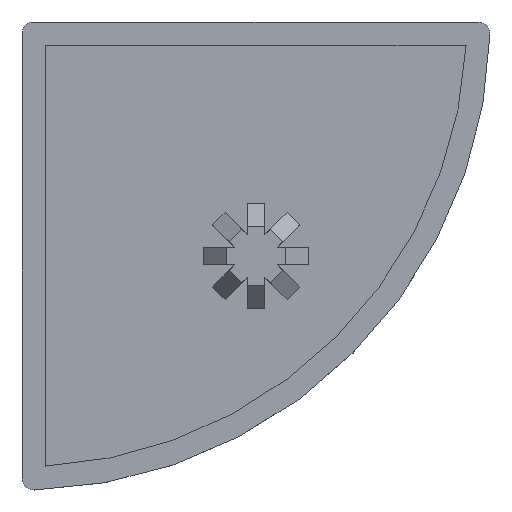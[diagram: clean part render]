
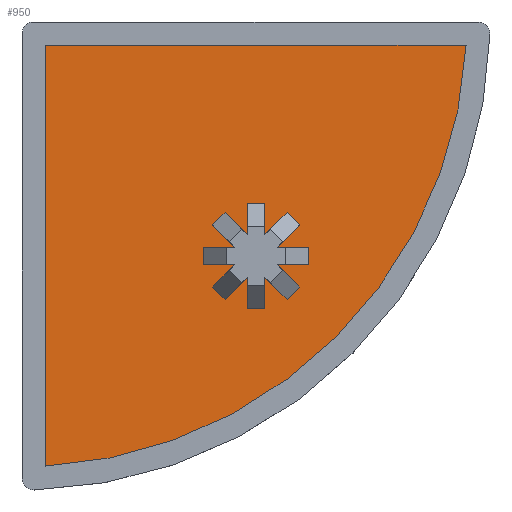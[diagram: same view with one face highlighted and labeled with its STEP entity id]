
A CAD part, top view. The second image highlights one B-rep face of the part: STEP entity #950.
In plain terms, the highlighted planar face has unit normal (0, 0, 1).
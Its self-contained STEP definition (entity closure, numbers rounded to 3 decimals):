
#16=FACE_BOUND('',#400,.T.);
#56=PLANE('',#1020);
#75=LINE('',#1335,#190);
#103=LINE('',#1391,#218);
#106=LINE('',#1396,#221);
#110=LINE('',#1405,#225);
#116=LINE('',#1417,#231);
#122=LINE('',#1429,#237);
#128=LINE('',#1441,#243);
#134=LINE('',#1453,#249);
#140=LINE('',#1464,#255);
#141=LINE('',#1467,#256);
#143=LINE('',#1470,#258);
#144=LINE('',#1473,#259);
#146=LINE('',#1476,#261);
#147=LINE('',#1479,#262);
#149=LINE('',#1483,#264);
#151=LINE('',#1487,#266);
#154=LINE('',#1492,#269);
#156=LINE('',#1496,#271);
#157=LINE('',#1498,#272);
#159=LINE('',#1502,#274);
#160=LINE('',#1504,#275);
#162=LINE('',#1508,#277);
#163=LINE('',#1510,#278);
#164=LINE('',#1512,#279);
#165=LINE('',#1516,#280);
#170=LINE('',#1529,#285);
#190=VECTOR('',#1088,2.689);
#218=VECTOR('',#1122,2.689);
#221=VECTOR('',#1127,1.5);
#225=VECTOR('',#1135,2.689);
#231=VECTOR('',#1145,2.689);
#237=VECTOR('',#1155,2.689);
#243=VECTOR('',#1165,2.689);
#249=VECTOR('',#1175,2.689);
#255=VECTOR('',#1185,2.689);
#256=VECTOR('',#1188,1.5);
#258=VECTOR('',#1192,2.689);
#259=VECTOR('',#1195,1.5);
#261=VECTOR('',#1199,2.689);
#262=VECTOR('',#1202,1.5);
#264=VECTOR('',#1206,2.689);
#266=VECTOR('',#1210,2.689);
#269=VECTOR('',#1215,2.689);
#271=VECTOR('',#1219,2.689);
#272=VECTOR('',#1222,1.5);
#274=VECTOR('',#1226,2.689);
#275=VECTOR('',#1229,1.5);
#277=VECTOR('',#1233,2.689);
#278=VECTOR('',#1236,1.5);
#279=VECTOR('',#1239,1.5);
#280=VECTOR('',#1242,35.947);
#285=VECTOR('',#1255,35.947);
#347=FACE_OUTER_BOUND('',#399,.T.);
#399=EDGE_LOOP('',(#872,#873,#874));
#400=EDGE_LOOP('',(#875,#876,#877,#878,#879,#880,#881,#882,#883,#884,#885,
#886,#887,#888,#889,#890,#891,#892,#893,#894,#895,#896,#897,#898));
#414=CIRCLE('',#1011,38.);
#436=VERTEX_POINT('',#1332);
#437=VERTEX_POINT('',#1334);
#461=VERTEX_POINT('',#1388);
#462=VERTEX_POINT('',#1390);
#463=VERTEX_POINT('',#1394);
#466=VERTEX_POINT('',#1404);
#469=VERTEX_POINT('',#1414);
#470=VERTEX_POINT('',#1416);
#473=VERTEX_POINT('',#1426);
#474=VERTEX_POINT('',#1428);
#477=VERTEX_POINT('',#1438);
#478=VERTEX_POINT('',#1440);
#481=VERTEX_POINT('',#1450);
#482=VERTEX_POINT('',#1452);
#485=VERTEX_POINT('',#1462);
#486=VERTEX_POINT('',#1466);
#487=VERTEX_POINT('',#1472);
#488=VERTEX_POINT('',#1478);
#489=VERTEX_POINT('',#1482);
#490=VERTEX_POINT('',#1486);
#491=VERTEX_POINT('',#1490);
#492=VERTEX_POINT('',#1494);
#493=VERTEX_POINT('',#1500);
#494=VERTEX_POINT('',#1506);
#495=VERTEX_POINT('',#1514);
#496=VERTEX_POINT('',#1515);
#499=VERTEX_POINT('',#1523);
#531=EDGE_CURVE('',#437,#436,#75,.T.);
#559=EDGE_CURVE('',#462,#461,#103,.T.);
#562=EDGE_CURVE('',#461,#463,#106,.T.);
#566=EDGE_CURVE('',#466,#462,#110,.T.);
#572=EDGE_CURVE('',#470,#469,#116,.T.);
#578=EDGE_CURVE('',#474,#473,#122,.T.);
#584=EDGE_CURVE('',#478,#477,#128,.T.);
#590=EDGE_CURVE('',#482,#481,#134,.T.);
#596=EDGE_CURVE('',#481,#485,#140,.T.);
#597=EDGE_CURVE('',#486,#466,#141,.T.);
#599=EDGE_CURVE('',#469,#486,#143,.T.);
#600=EDGE_CURVE('',#487,#470,#144,.T.);
#602=EDGE_CURVE('',#473,#487,#146,.T.);
#603=EDGE_CURVE('',#488,#474,#147,.T.);
#605=EDGE_CURVE('',#489,#488,#149,.T.);
#607=EDGE_CURVE('',#490,#489,#151,.T.);
#610=EDGE_CURVE('',#463,#491,#154,.T.);
#612=EDGE_CURVE('',#491,#492,#156,.T.);
#613=EDGE_CURVE('',#492,#437,#157,.T.);
#615=EDGE_CURVE('',#436,#493,#159,.T.);
#616=EDGE_CURVE('',#493,#478,#160,.T.);
#618=EDGE_CURVE('',#477,#494,#162,.T.);
#619=EDGE_CURVE('',#494,#482,#163,.T.);
#620=EDGE_CURVE('',#485,#490,#164,.T.);
#621=EDGE_CURVE('',#495,#496,#165,.T.);
#625=EDGE_CURVE('',#499,#495,#414,.T.);
#628=EDGE_CURVE('',#496,#499,#170,.T.);
#872=ORIENTED_EDGE('',*,*,#625,.F.);
#873=ORIENTED_EDGE('',*,*,#628,.F.);
#874=ORIENTED_EDGE('',*,*,#621,.F.);
#875=ORIENTED_EDGE('',*,*,#605,.T.);
#876=ORIENTED_EDGE('',*,*,#603,.T.);
#877=ORIENTED_EDGE('',*,*,#578,.T.);
#878=ORIENTED_EDGE('',*,*,#602,.T.);
#879=ORIENTED_EDGE('',*,*,#600,.T.);
#880=ORIENTED_EDGE('',*,*,#572,.T.);
#881=ORIENTED_EDGE('',*,*,#599,.T.);
#882=ORIENTED_EDGE('',*,*,#597,.T.);
#883=ORIENTED_EDGE('',*,*,#566,.T.);
#884=ORIENTED_EDGE('',*,*,#559,.T.);
#885=ORIENTED_EDGE('',*,*,#562,.T.);
#886=ORIENTED_EDGE('',*,*,#610,.T.);
#887=ORIENTED_EDGE('',*,*,#612,.T.);
#888=ORIENTED_EDGE('',*,*,#613,.T.);
#889=ORIENTED_EDGE('',*,*,#531,.T.);
#890=ORIENTED_EDGE('',*,*,#615,.T.);
#891=ORIENTED_EDGE('',*,*,#616,.T.);
#892=ORIENTED_EDGE('',*,*,#584,.T.);
#893=ORIENTED_EDGE('',*,*,#618,.T.);
#894=ORIENTED_EDGE('',*,*,#619,.T.);
#895=ORIENTED_EDGE('',*,*,#590,.T.);
#896=ORIENTED_EDGE('',*,*,#596,.T.);
#897=ORIENTED_EDGE('',*,*,#620,.T.);
#898=ORIENTED_EDGE('',*,*,#607,.T.);
#950=ADVANCED_FACE('',(#347,#16),#56,.T.);
#1011=AXIS2_PLACEMENT_3D('',#1524,#1248,#1249);
#1020=AXIS2_PLACEMENT_3D('',#1542,#1272,#1273);
#1088=DIRECTION('',(0.707,-0.707,0.));
#1122=DIRECTION('',(-1.,0.,0.));
#1127=DIRECTION('',(0.,1.,0.));
#1135=DIRECTION('',(0.707,0.707,0.));
#1145=DIRECTION('',(0.,1.,0.));
#1155=DIRECTION('',(-0.707,0.707,0.));
#1165=DIRECTION('',(0.,-1.,0.));
#1175=DIRECTION('',(-0.707,-0.707,0.));
#1185=DIRECTION('',(1.,0.,0.));
#1188=DIRECTION('',(-0.707,0.707,0.));
#1192=DIRECTION('',(-0.707,-0.707,0.));
#1195=DIRECTION('',(-1.,0.,0.));
#1199=DIRECTION('',(0.,-1.,0.));
#1202=DIRECTION('',(-0.707,-0.707,0.));
#1206=DIRECTION('',(0.707,-0.707,0.));
#1210=DIRECTION('',(-1.,0.,0.));
#1215=DIRECTION('',(1.,0.,0.));
#1219=DIRECTION('',(-0.707,0.707,0.));
#1222=DIRECTION('',(0.707,0.707,0.));
#1226=DIRECTION('',(0.,1.,0.));
#1229=DIRECTION('',(1.,0.,0.));
#1233=DIRECTION('',(0.707,0.707,0.));
#1236=DIRECTION('',(0.707,-0.707,0.));
#1239=DIRECTION('',(0.,-1.,0.));
#1242=DIRECTION('',(0.,1.,0.));
#1248=DIRECTION('center_axis',(0.,0.,-1.));
#1249=DIRECTION('ref_axis',(-0.053,0.999,0.));
#1255=DIRECTION('',(1.,0.,0.));
#1272=DIRECTION('center_axis',(0.,0.,1.));
#1273=DIRECTION('ref_axis',(1.,0.,0.));
#1332=CARTESIAN_POINT('',(36.075,36.221,1.));
#1334=CARTESIAN_POINT('',(34.173,38.123,1.));
#1335=CARTESIAN_POINT('',(34.114,38.182,1.));
#1388=CARTESIAN_POINT('',(32.325,33.661,1.));
#1390=CARTESIAN_POINT('',(35.014,33.661,1.));
#1391=CARTESIAN_POINT('',(34.269,33.661,1.));
#1394=CARTESIAN_POINT('',(32.325,35.161,1.));
#1396=CARTESIAN_POINT('',(32.325,35.686,1.));
#1404=CARTESIAN_POINT('',(33.112,31.759,1.));
#1405=CARTESIAN_POINT('',(34.703,33.35,1.));
#1414=CARTESIAN_POINT('',(36.075,32.6,1.));
#1416=CARTESIAN_POINT('',(36.075,29.911,1.));
#1417=CARTESIAN_POINT('',(36.075,33.811,1.));
#1426=CARTESIAN_POINT('',(37.575,32.6,1.));
#1428=CARTESIAN_POINT('',(39.476,30.699,1.));
#1429=CARTESIAN_POINT('',(36.235,33.94,1.));
#1438=CARTESIAN_POINT('',(37.575,36.221,1.));
#1440=CARTESIAN_POINT('',(37.575,38.911,1.));
#1441=CARTESIAN_POINT('',(37.575,38.311,1.));
#1450=CARTESIAN_POINT('',(38.635,35.161,1.));
#1452=CARTESIAN_POINT('',(40.537,37.062,1.));
#1453=CARTESIAN_POINT('',(38.946,35.471,1.));
#1462=CARTESIAN_POINT('',(41.325,35.161,1.));
#1464=CARTESIAN_POINT('',(36.08,35.161,1.));
#1466=CARTESIAN_POINT('',(34.173,30.699,1.));
#1467=CARTESIAN_POINT('',(32.258,32.614,1.));
#1470=CARTESIAN_POINT('',(36.715,33.24,1.));
#1472=CARTESIAN_POINT('',(37.575,29.911,1.));
#1473=CARTESIAN_POINT('',(35.55,29.911,1.));
#1476=CARTESIAN_POINT('',(37.575,35.156,1.));
#1478=CARTESIAN_POINT('',(40.537,31.759,1.));
#1479=CARTESIAN_POINT('',(40.272,31.494,1.));
#1482=CARTESIAN_POINT('',(38.635,33.661,1.));
#1483=CARTESIAN_POINT('',(36.345,35.951,1.));
#1486=CARTESIAN_POINT('',(41.325,33.661,1.));
#1487=CARTESIAN_POINT('',(37.425,33.661,1.));
#1490=CARTESIAN_POINT('',(35.014,35.161,1.));
#1492=CARTESIAN_POINT('',(32.925,35.161,1.));
#1494=CARTESIAN_POINT('',(33.112,37.062,1.));
#1496=CARTESIAN_POINT('',(34.004,36.171,1.));
#1498=CARTESIAN_POINT('',(33.378,37.328,1.));
#1500=CARTESIAN_POINT('',(36.075,38.911,1.));
#1502=CARTESIAN_POINT('',(36.075,36.966,1.));
#1504=CARTESIAN_POINT('',(34.8,38.911,1.));
#1506=CARTESIAN_POINT('',(39.476,38.123,1.));
#1508=CARTESIAN_POINT('',(36.935,35.581,1.));
#1510=CARTESIAN_POINT('',(38.091,39.508,1.));
#1512=CARTESIAN_POINT('',(41.325,36.436,1.));
#1514=CARTESIAN_POINT('',(18.825,16.463,1.));
#1515=CARTESIAN_POINT('',(18.825,52.411,1.));
#1516=CARTESIAN_POINT('',(18.825,16.463,1.));
#1523=CARTESIAN_POINT('',(54.772,52.411,1.));
#1524=CARTESIAN_POINT('Origin',(16.825,54.411,1.));
#1529=CARTESIAN_POINT('',(18.825,52.411,1.));
#1542=CARTESIAN_POINT('Origin',(33.525,37.711,1.));
